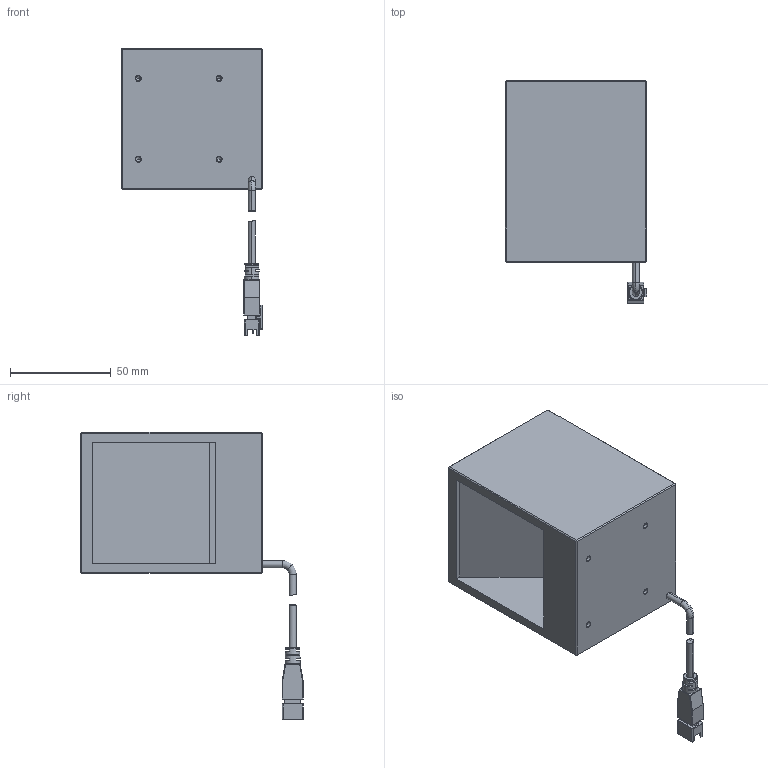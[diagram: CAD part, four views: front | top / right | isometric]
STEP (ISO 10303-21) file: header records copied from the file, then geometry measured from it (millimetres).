
FILE_DESCRIPTION((''),'2;1');
FILE_NAME('JIANYI_ASM','2014-06-11T',('admin'),(''),'PRO/ENGINEER BY PARAMETRIC TECHNOLOGY CORPORATION, 2011220','PRO/ENGINEER BY PARAMETRIC TECHNOLOGY CORPORATION, 2011220','');
FILE_SCHEMA(('CONFIG_CONTROL_DESIGN'));
Length unit declared in the file: millimetre
Products named in the file (5): JIANYI; LINE_TOU; BODY_12; ASSY_ASM; JIANYI_ASM
Assembly tree (4 placements, depth 3):
  JIANYI_ASM
    JIANYI
    ASSY_ASM
      LINE_TOU
      BODY_12
Bounding box: 70.2 x 110.25 x 142.55 mm (x, y, z)
Volume: 322719.2 mm3; surface area: 47055.1 mm2
Topology: 3 solids, 11 shells, 310 faces, 783 edges, 491 vertices
Faces by surface type: plane 165, cylinder 99, cone 18, torus 12, bspline 8, sphere 8
Entity records: 9482 total; most frequent: CARTESIAN_POINT 1888, DIRECTION 1607, ORIENTED_EDGE 1502, EDGE_CURVE 767, AXIS2_PLACEMENT_3D 559, VERTEX_POINT 491, VECTOR 489, LINE 489
